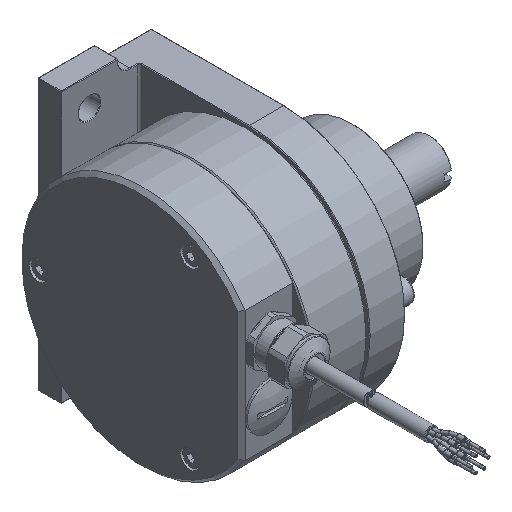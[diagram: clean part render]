
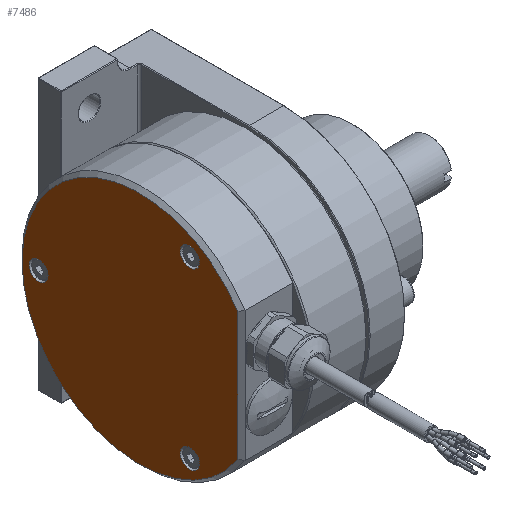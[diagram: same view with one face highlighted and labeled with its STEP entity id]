
A CAD part, isometric view. The second image highlights one B-rep face of the part: STEP entity #7486.
In plain terms, the highlighted planar face has unit normal (-1, 0, 0).
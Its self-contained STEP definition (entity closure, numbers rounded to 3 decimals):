
#448=FACE_BOUND('',#1610,.T.);
#449=FACE_BOUND('',#1611,.T.);
#450=FACE_BOUND('',#1612,.T.);
#554=PLANE('',#8414);
#1101=FACE_OUTER_BOUND('',#1609,.T.);
#1609=EDGE_LOOP('',(#5746,#5747));
#1610=EDGE_LOOP('',(#5748));
#1611=EDGE_LOOP('',(#5749));
#1612=EDGE_LOOP('',(#5750));
#2085=LINE('',#14634,#2566);
#2566=VECTOR('',#9839,53.963);
#3126=CIRCLE('',#8411,4.);
#3128=CIRCLE('',#8415,49.5);
#3129=CIRCLE('',#8416,4.);
#3130=CIRCLE('',#8417,4.);
#3588=VERTEX_POINT('',#14624);
#3590=VERTEX_POINT('',#14632);
#3591=VERTEX_POINT('',#14633);
#3592=VERTEX_POINT('',#14636);
#3593=VERTEX_POINT('',#14638);
#4369=EDGE_CURVE('',#3588,#3588,#3126,.T.);
#4372=EDGE_CURVE('',#3590,#3591,#2085,.T.);
#4373=EDGE_CURVE('',#3591,#3590,#3128,.T.);
#4374=EDGE_CURVE('',#3592,#3592,#3129,.T.);
#4375=EDGE_CURVE('',#3593,#3593,#3130,.T.);
#5746=ORIENTED_EDGE('',*,*,#4372,.F.);
#5747=ORIENTED_EDGE('',*,*,#4373,.F.);
#5748=ORIENTED_EDGE('',*,*,#4369,.F.);
#5749=ORIENTED_EDGE('',*,*,#4374,.F.);
#5750=ORIENTED_EDGE('',*,*,#4375,.F.);
#7486=ADVANCED_FACE('',(#1101,#448,#449,#450),#554,.T.);
#8411=AXIS2_PLACEMENT_3D('',#14626,#9830,#9831);
#8414=AXIS2_PLACEMENT_3D('',#14631,#9837,#9838);
#8415=AXIS2_PLACEMENT_3D('',#14635,#9840,#9841);
#8416=AXIS2_PLACEMENT_3D('',#14637,#9842,#9843);
#8417=AXIS2_PLACEMENT_3D('',#14639,#9844,#9845);
#9830=DIRECTION('center_axis',(-1.,0.,0.));
#9831=DIRECTION('ref_axis',(0.,0.,
-1.));
#9837=DIRECTION('center_axis',(-1.,0.,0.));
#9838=DIRECTION('ref_axis',(0.,0.,
-1.));
#9839=DIRECTION('',(0.,0.,-1.));
#9840=DIRECTION('center_axis',(1.,0.,0.));
#9841=DIRECTION('ref_axis',(0.,0.,-1.));
#9842=DIRECTION('center_axis',(-1.,0.,0.));
#9843=DIRECTION('ref_axis',(0.,0.,
-1.));
#9844=DIRECTION('center_axis',(-1.,0.,0.));
#9845=DIRECTION('ref_axis',(0.,0.,
-1.));
#14624=CARTESIAN_POINT('',(-46.,42.5,4.));
#14626=CARTESIAN_POINT('Origin',(-46.,42.5,0.));
#14631=CARTESIAN_POINT('Origin',(-46.,49.5,0.));
#14632=CARTESIAN_POINT('',(-46.,-41.5,26.981));
#14633=CARTESIAN_POINT('',(-46.,-41.5,-26.981));
#14634=CARTESIAN_POINT('',(-46.,-41.5,-26.981));
#14635=CARTESIAN_POINT('Origin',(-46.,0.,0.));
#14636=CARTESIAN_POINT('',(-46.,-21.25,40.806));
#14637=CARTESIAN_POINT('Origin',(-46.,-21.25,36.806));
#14638=CARTESIAN_POINT('',(-46.,-21.25,-32.806));
#14639=CARTESIAN_POINT('Origin',(-46.,-21.25,-36.806));
